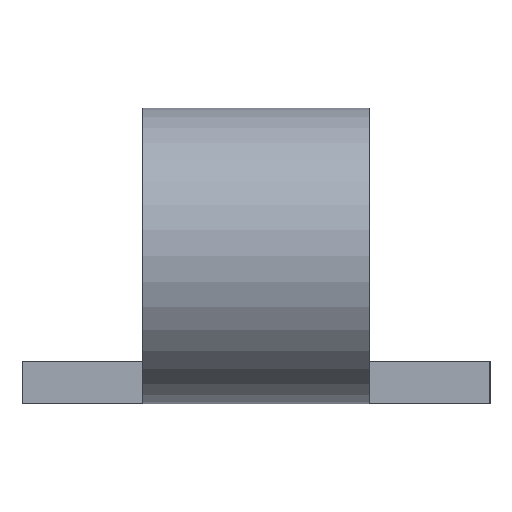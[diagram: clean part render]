
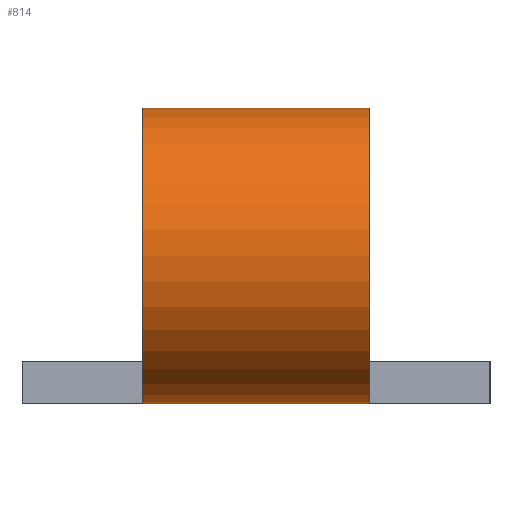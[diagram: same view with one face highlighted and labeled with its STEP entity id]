
A CAD part, left-side view. The second image highlights one B-rep face of the part: STEP entity #814.
In plain terms, the highlighted cylindrical face has radius 4.9 mm (diameter 9.8 mm), a partial arc.
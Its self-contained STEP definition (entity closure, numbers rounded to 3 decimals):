
#47 = VERTEX_POINT ( 'NONE', #780 ) ;
#54 = DIRECTION ( 'NONE',  ( 1., 0., 0. ) ) ;
#55 = DIRECTION ( 'NONE',  ( 0., -1., 0. ) ) ;
#74 = DIRECTION ( 'NONE',  ( 0.866, 0., 0.5 ) ) ;
#76 = CARTESIAN_POINT ( 'NONE',  ( -7.256, 3.75, 5.95 ) ) ;
#128 = DIRECTION ( 'NONE',  ( 0., 1., 0. ) ) ;
#129 = CARTESIAN_POINT ( 'NONE',  ( -11.5, 7.75, -1.4 ) ) ;
#149 = DIRECTION ( 'NONE',  ( 0., -1., 0. ) ) ;
#151 = CARTESIAN_POINT ( 'NONE',  ( -7.256, -3.75, 5.95 ) ) ;
#156 = EDGE_LOOP ( 'NONE', ( #481, #221, #350, #728 ) ) ;
#176 = VECTOR ( 'NONE', #228, 1000. ) ;
#183 = AXIS2_PLACEMENT_3D ( 'NONE', #654, #466, #369 ) ;
#213 = CARTESIAN_POINT ( 'NONE',  ( -11.5, 3.75, 3.5 ) ) ;
#214 = LINE ( 'NONE', #129, #614 ) ;
#221 = ORIENTED_EDGE ( 'NONE', *, *, #715, .F. ) ;
#228 = DIRECTION ( 'NONE',  ( 0., 1., 0. ) ) ;
#242 = AXIS2_PLACEMENT_3D ( 'NONE', #213, #128, #54 ) ;
#273 = FACE_OUTER_BOUND ( 'NONE', #156, .T. ) ;
#282 = CARTESIAN_POINT ( 'NONE',  ( -11.5, 3.75, -1.4 ) ) ;
#317 = CIRCLE ( 'NONE', #183, 4.9 ) ;
#330 = CARTESIAN_POINT ( 'NONE',  ( -7.256, 0., 5.95 ) ) ;
#350 = ORIENTED_EDGE ( 'NONE', *, *, #768, .T. ) ;
#369 = DIRECTION ( 'NONE',  ( -1., 0., 0. ) ) ;
#377 = CIRCLE ( 'NONE', #242, 4.9 ) ;
#419 = LINE ( 'NONE', #330, #176 ) ;
#434 = VERTEX_POINT ( 'NONE', #282 ) ;
#466 = DIRECTION ( 'NONE',  ( 0., -1., 0. ) ) ;
#481 = ORIENTED_EDGE ( 'NONE', *, *, #708, .T. ) ;
#514 = EDGE_CURVE ( 'NONE', #825, #47, #317, .T. ) ;
#528 = CARTESIAN_POINT ( 'NONE',  ( -11.5, -7.75, 3.5 ) ) ;
#614 = VECTOR ( 'NONE', #55, 1000. ) ;
#654 = CARTESIAN_POINT ( 'NONE',  ( -11.5, -3.75, 3.5 ) ) ;
#708 = EDGE_CURVE ( 'NONE', #825, #830, #419, .T. ) ;
#715 = EDGE_CURVE ( 'NONE', #434, #830, #377, .T. ) ;
#727 = CYLINDRICAL_SURFACE ( 'NONE', #747, 4.9 ) ;
#728 = ORIENTED_EDGE ( 'NONE', *, *, #514, .F. ) ;
#747 = AXIS2_PLACEMENT_3D ( 'NONE', #528, #149, #74 ) ;
#768 = EDGE_CURVE ( 'NONE', #434, #47, #214, .T. ) ;
#780 = CARTESIAN_POINT ( 'NONE',  ( -11.5, -3.75, -1.4 ) ) ;
#814 = ADVANCED_FACE ( 'NONE', ( #273 ), #727, .T. ) ;
#825 = VERTEX_POINT ( 'NONE', #151 ) ;
#830 = VERTEX_POINT ( 'NONE', #76 ) ;
